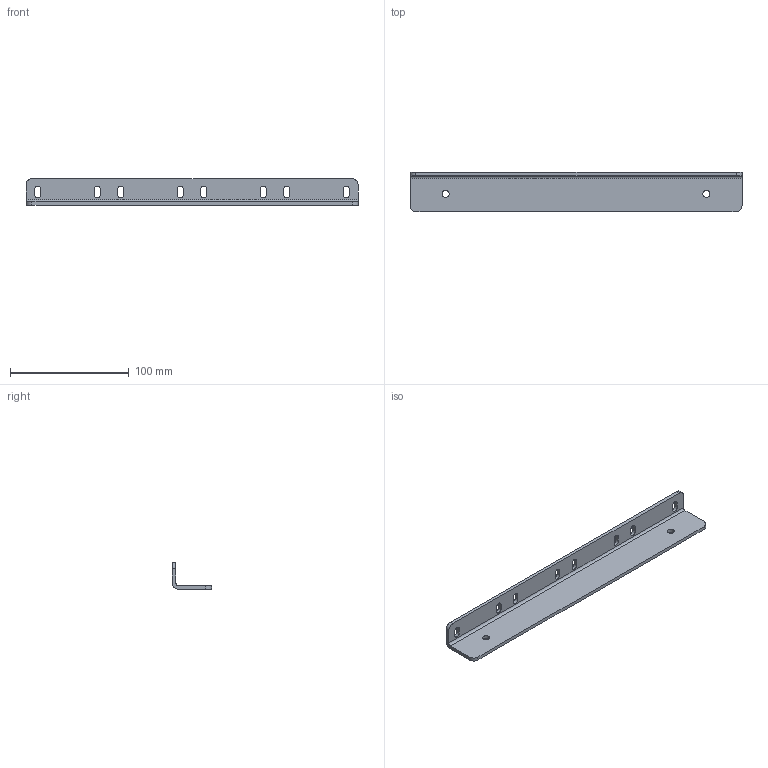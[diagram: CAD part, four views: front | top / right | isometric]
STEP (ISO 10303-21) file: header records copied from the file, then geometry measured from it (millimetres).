
FILE_DESCRIPTION((''),'2;1');
FILE_NAME('0000187201','2024-02-15T15:42:31',('Wyndorps'),(''),'CREO PARAMETRIC BY PTC INC, 2022484','CREO PARAMETRIC BY PTC INC, 2022484','');
FILE_SCHEMA(('CONFIG_CONTROL_DESIGN'));
Length unit declared in the file: millimetre
Products named in the file (1): 0000187201
Bounding box: 280 x 33 x 22.5 mm (x, y, z)
Volume: 41502.2 mm3; surface area: 30357.1 mm2
Topology: 1 solids, 1 shells, 50 faces, 148 edges, 100 vertices
Faces by surface type: cylinder 26, plane 24
Entity records: 1774 total; most frequent: DIRECTION 300, CARTESIAN_POINT 298, ORIENTED_EDGE 296, EDGE_CURVE 148, AXIS2_PLACEMENT_3D 102, VERTEX_POINT 100, VECTOR 96, LINE 96
